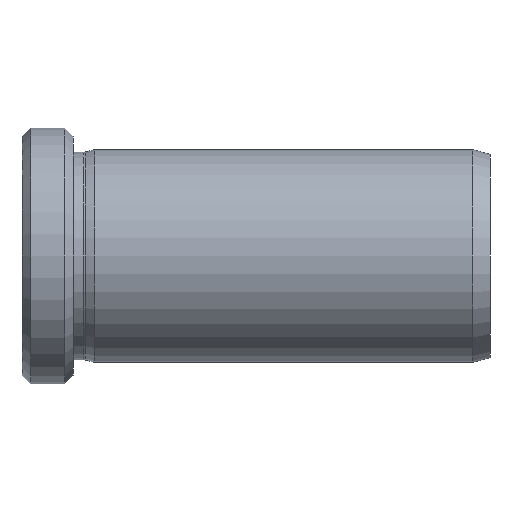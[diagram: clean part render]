
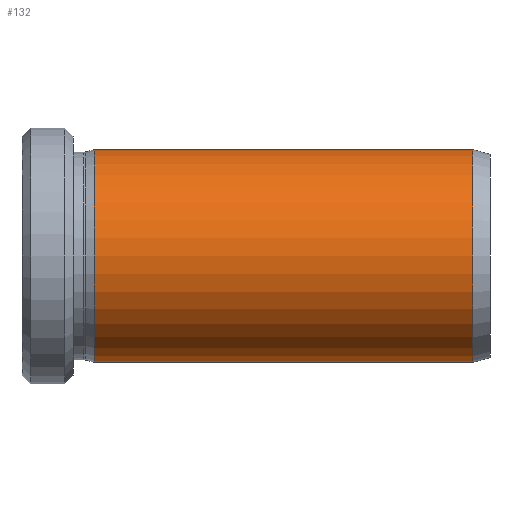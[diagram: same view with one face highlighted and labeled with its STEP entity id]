
A CAD part, front view. The second image highlights one B-rep face of the part: STEP entity #132.
In plain terms, the highlighted cylindrical face has radius 12.5 mm (diameter 25 mm), a partial arc.
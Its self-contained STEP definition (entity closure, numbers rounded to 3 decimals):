
#15 = CARTESIAN_POINT ( 'NONE',  ( 19.3, 0., -12.5 ) ) ;
#23 = ORIENTED_EDGE ( 'NONE', *, *, #218, .F. ) ;
#40 = VERTEX_POINT ( 'NONE', #392 ) ;
#43 = ORIENTED_EDGE ( 'NONE', *, *, #268, .T. ) ;
#44 = CARTESIAN_POINT ( 'NONE',  ( 19.3, 0., 12.5 ) ) ;
#45 = CARTESIAN_POINT ( 'NONE',  ( 0., 0., 0. ) ) ;
#53 = AXIS2_PLACEMENT_3D ( 'NONE', #539, #252, #593 ) ;
#56 = CARTESIAN_POINT ( 'NONE',  ( 63.8, 0., 0. ) ) ;
#60 = LINE ( 'NONE', #409, #575 ) ;
#108 = DIRECTION ( 'NONE',  ( -1., 0., 0. ) ) ;
#111 = ORIENTED_EDGE ( 'NONE', *, *, #315, .T. ) ;
#132 = ADVANCED_FACE ( 'NONE', ( #616 ), #453, .T. ) ;
#168 = CIRCLE ( 'NONE', #191, 12.5 ) ;
#172 = VERTEX_POINT ( 'NONE', #44 ) ;
#191 = AXIS2_PLACEMENT_3D ( 'NONE', #56, #108, #412 ) ;
#194 = EDGE_CURVE ( 'NONE', #620, #172, #550, .T. ) ;
#204 = LINE ( 'NONE', #303, #296 ) ;
#211 = EDGE_LOOP ( 'NONE', ( #23, #43, #111, #470 ) ) ;
#216 = DIRECTION ( 'NONE',  ( -1., 0., 0. ) ) ;
#218 = EDGE_CURVE ( 'NONE', #309, #620, #204, .T. ) ;
#252 = DIRECTION ( 'NONE',  ( -1., 0., 0. ) ) ;
#268 = EDGE_CURVE ( 'NONE', #309, #40, #168, .T. ) ;
#296 = VECTOR ( 'NONE', #449, 1000. ) ;
#303 = CARTESIAN_POINT ( 'NONE',  ( 0., 0., -12.5 ) ) ;
#309 = VERTEX_POINT ( 'NONE', #456 ) ;
#315 = EDGE_CURVE ( 'NONE', #40, #172, #60, .T. ) ;
#392 = CARTESIAN_POINT ( 'NONE',  ( 63.8, 0., 12.5 ) ) ;
#395 = DIRECTION ( 'NONE',  ( -1., 0., 0. ) ) ;
#409 = CARTESIAN_POINT ( 'NONE',  ( 0., 0., 12.5 ) ) ;
#412 = DIRECTION ( 'NONE',  ( 0., 0., 1. ) ) ;
#449 = DIRECTION ( 'NONE',  ( -1., 0., 0. ) ) ;
#453 = CYLINDRICAL_SURFACE ( 'NONE', #570, 12.5 ) ;
#456 = CARTESIAN_POINT ( 'NONE',  ( 63.8, 0., -12.5 ) ) ;
#470 = ORIENTED_EDGE ( 'NONE', *, *, #194, .F. ) ;
#488 = DIRECTION ( 'NONE',  ( 0., 0., 1. ) ) ;
#539 = CARTESIAN_POINT ( 'NONE',  ( 19.3, 0., 0. ) ) ;
#550 = CIRCLE ( 'NONE', #53, 12.5 ) ;
#570 = AXIS2_PLACEMENT_3D ( 'NONE', #45, #395, #488 ) ;
#575 = VECTOR ( 'NONE', #216, 1000. ) ;
#593 = DIRECTION ( 'NONE',  ( 0., 0., 1. ) ) ;
#616 = FACE_OUTER_BOUND ( 'NONE', #211, .T. ) ;
#620 = VERTEX_POINT ( 'NONE', #15 ) ;
